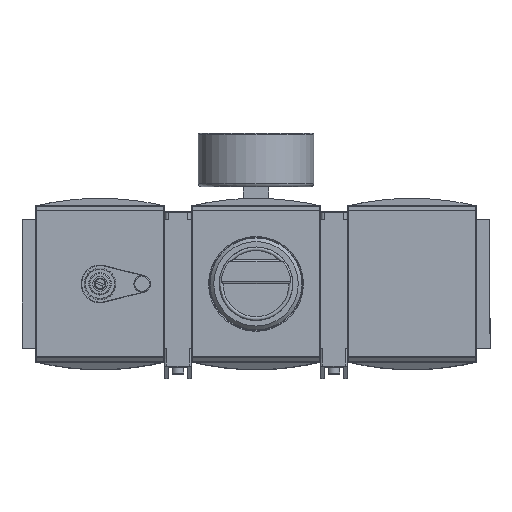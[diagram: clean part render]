
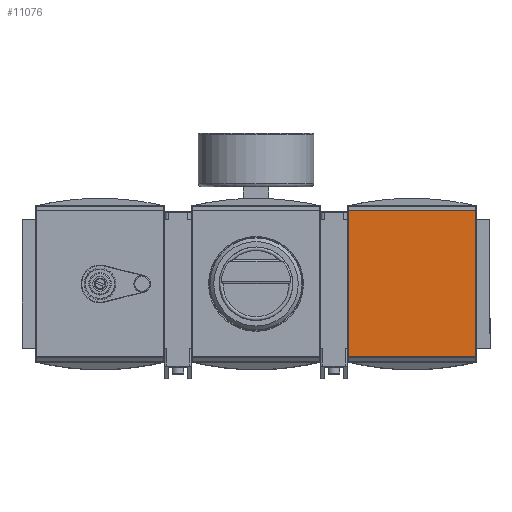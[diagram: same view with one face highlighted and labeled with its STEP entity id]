
A CAD part, top view. The second image highlights one B-rep face of the part: STEP entity #11076.
In plain terms, the highlighted planar face has unit normal (0, 0, 1).
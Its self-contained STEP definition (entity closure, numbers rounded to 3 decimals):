
#10857=CARTESIAN_POINT('',(119.8,-39.812,58.));
#10858=VERTEX_POINT('',#10857);
#10866=CARTESIAN_POINT('',(50.2,-39.812,58.));
#10867=VERTEX_POINT('',#10866);
#10868=CARTESIAN_POINT('',(119.8,-39.812,58.));
#10869=DIRECTION('',(-1.0,0.0,0.0));
#10870=VECTOR('',#10869,69.6);
#10871=LINE('',#10868,#10870);
#10872=EDGE_CURVE('',#10858,#10867,#10871,.T.);
#10906=CARTESIAN_POINT('',(50.2,39.812,58.));
#10907=VERTEX_POINT('',#10906);
#10908=CARTESIAN_POINT('',(50.2,-39.812,58.));
#10909=DIRECTION('',(0.0,1.0,0.0));
#10910=VECTOR('',#10909,79.624);
#10911=LINE('',#10908,#10910);
#10912=EDGE_CURVE('',#10867,#10907,#10911,.T.);
#10944=CARTESIAN_POINT('',(119.8,39.812,58.));
#10945=VERTEX_POINT('',#10944);
#10946=CARTESIAN_POINT('',(50.2,39.812,58.));
#10947=DIRECTION('',(1.0,0.0,0.0));
#10948=VECTOR('',#10947,69.6);
#10949=LINE('',#10946,#10948);
#10950=EDGE_CURVE('',#10907,#10945,#10949,.T.);
#10992=CARTESIAN_POINT('',(119.8,39.812,58.));
#10993=DIRECTION('',(0.0,-1.0,0.0));
#10994=VECTOR('',#10993,79.624);
#10995=LINE('',#10992,#10994);
#10996=EDGE_CURVE('',#10945,#10858,#10995,.T.);
#11065=CARTESIAN_POINT('',(85.,0.,58.));
#11066=DIRECTION('',(0.0,0.0,1.0));
#11067=DIRECTION('',(-1.0,0.0,0.0));
#11068=AXIS2_PLACEMENT_3D('',#11065,#11066,#11067);
#11069=PLANE('',#11068);
#11070=ORIENTED_EDGE('',*,*,#10872,.F.);
#11071=ORIENTED_EDGE('',*,*,#10996,.F.);
#11072=ORIENTED_EDGE('',*,*,#10950,.F.);
#11073=ORIENTED_EDGE('',*,*,#10912,.F.);
#11074=EDGE_LOOP('',(#11070,#11071,#11072,#11073));
#11075=FACE_OUTER_BOUND('',#11074,.T.);
#11076=ADVANCED_FACE('',(#11075),#11069,.T.);
